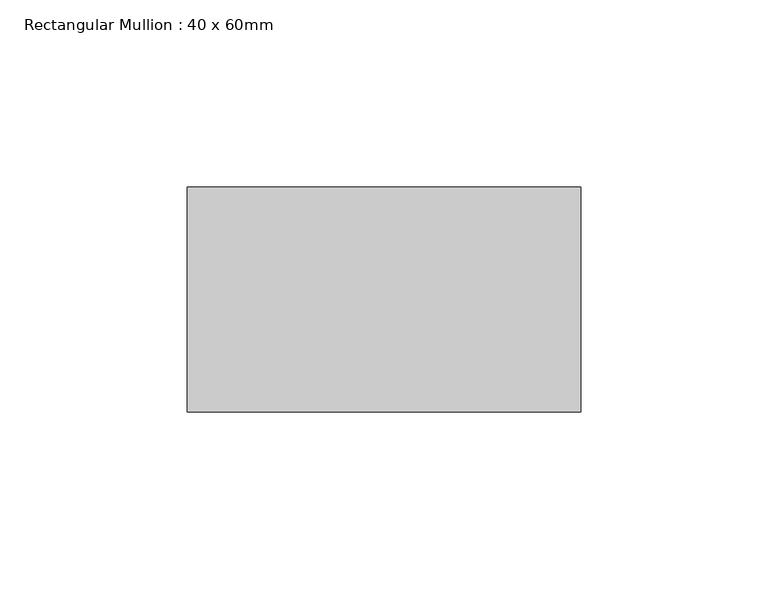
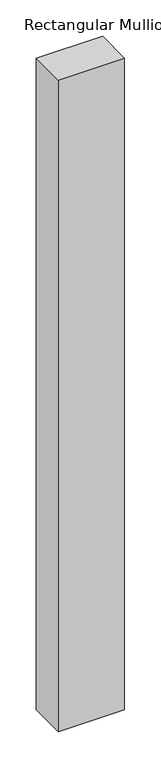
"""IFC4 building model written with IfcOpenShell, lengths in millimetres: member geometry, Rectangular Mullion : 40 x 60mm."""

import ifcopenshell
import ifcopenshell.guid

model = None  # the IFC model being written
_history = None  # IfcOwnerHistory: only IFC2X3 demands one
_inside = {}  # id of a spatial element -> (the spatial element, [elements in it])
_under = {}  # id of a project, library or spatial element -> (it, [spatial elements below it])
_declared = {}  # id of a project -> (the project, [libraries it declares])
_typed = {}  # id of a type object -> (the type object, [elements of that type])
_made_of = {}  # id of a material, layer set ... -> (it, [elements and type objects made of it])


def new_model(schema):
    """Start an empty IFC model of exactly this schema.

    Asked for "IFC4X3", IfcOpenShell would pick the latest addendum, in which some entities
    have other attributes; the version numbers below select the first issue.
    IFC2X3 requires an IfcOwnerHistory on every rooted entity: one is made here for all.
    """
    global model, _history
    if schema == "IFC4X3":
        model = ifcopenshell.file(schema_version=(4, 3, 0, 0))
    else:
        model = ifcopenshell.file(schema=schema)
    _inside.clear()
    _under.clear()
    _declared.clear()
    _typed.clear()
    _made_of.clear()
    _history = None
    if model.schema == "IFC2X3":
        org = make("IfcOrganization", Name="unknown")
        user = make(
            "IfcPersonAndOrganization",
            ThePerson=make("IfcPerson", FamilyName="unknown"),
            TheOrganization=org,
        )
        app = make(
            "IfcApplication",
            ApplicationDeveloper=org,
            Version="unknown",
            ApplicationFullName="unknown",
            ApplicationIdentifier="unknown",
        )
        _history = make(
            "IfcOwnerHistory",
            OwningUser=user,
            OwningApplication=app,
            ChangeAction="ADDED",
            CreationDate=0,
        )
    return model


def make(cls, **values):
    """One entity of the class cls with the attributes given. An attribute that is None is left unset."""
    return model.create_entity(
        cls, **{name: value for name, value in values.items() if value is not None}
    )


def rooted(cls, **values):
    """An entity with a GlobalId (a new one), such as an element, a storey or a relation."""
    return make(cls, GlobalId=ifcopenshell.guid.new(), OwnerHistory=_history, **values)


def si_unit(unit_type, name, prefix=None):
    """IfcSIUnit, for example si_unit("LENGTHUNIT", "METRE", prefix="MILLI")."""
    return make("IfcSIUnit", UnitType=unit_type, Prefix=prefix, Name=name)


def assignment(units):
    """IfcUnitAssignment: the units of a project."""
    return None if units is None else make("IfcUnitAssignment", Units=units)


def point(xyz):
    """IfcCartesianPoint."""
    return None if xyz is None else make("IfcCartesianPoint", Coordinates=xyz)


def direction(xyz):
    """IfcDirection."""
    return None if xyz is None else make("IfcDirection", DirectionRatios=xyz)


def frame(location, z_axis=None, x_axis=None):
    """IfcAxis2Placement3D, a coordinate frame: its origin and axes. An axis left out is left unset."""
    return make(
        "IfcAxis2Placement3D",
        Location=point(location),
        Axis=direction(z_axis),
        RefDirection=direction(x_axis),
    )


def origin():
    """The frame at (0, 0, 0) with its axes left unset."""
    return frame((0.0, 0.0, 0.0))


def place(relative_to, where):
    """IfcLocalPlacement: puts the frame where relative to a parent placement (None: the world)."""
    return make(
        "IfcLocalPlacement", PlacementRelTo=relative_to, RelativePlacement=where
    )


def context(
    kind, dimensions, precision=None, world=None, true_north=None, identifier=None
):
    """IfcGeometricRepresentationContext, for example the 3D "Model" context."""
    return make(
        "IfcGeometricRepresentationContext",
        ContextIdentifier=identifier,
        ContextType=kind,
        CoordinateSpaceDimension=dimensions,
        Precision=precision,
        WorldCoordinateSystem=world,
        TrueNorth=true_north,
    )


def project(units=None, contexts=None):
    """IfcProject with its units and contexts."""
    return rooted(
        "IfcProject",
        Name="project",
        RepresentationContexts=contexts,
        UnitsInContext=assignment(units),
    )


def spatial(cls, under=None, at=None, **own):
    """A site, building, storey or space (cls), placed at a placement, below another one or the project."""
    s = rooted(cls, ObjectPlacement=at, **own)
    if under is not None:
        _under.setdefault(under.id(), (under, []))[1].append(s)
    return s


def polyline(points):
    """IfcPolyline through the points."""
    return make("IfcPolyline", Points=[point(p) for p in points])


def outline(outer, holes=None, kind="AREA"):
    """IfcArbitraryClosedProfileDef: a profile drawn as a closed curve; with holes, ...WithVoids."""
    if holes is None:
        return make("IfcArbitraryClosedProfileDef", ProfileType=kind, OuterCurve=outer)
    return make(
        "IfcArbitraryProfileDefWithVoids",
        ProfileType=kind,
        OuterCurve=outer,
        InnerCurves=holes,
    )


def extrude(swept, where, along, depth):
    """IfcExtrudedAreaSolid: the profile swept, set in the frame where, extruded along a direction by depth."""
    return make(
        "IfcExtrudedAreaSolid",
        SweptArea=swept,
        Position=where,
        ExtrudedDirection=direction(along),
        Depth=depth,
    )


def shape(context_of_items, identifier, shape_type, items):
    """IfcShapeRepresentation: the items that make up one representation, for example the "Body"."""
    return make(
        "IfcShapeRepresentation",
        ContextOfItems=context_of_items,
        RepresentationIdentifier=identifier,
        RepresentationType=shape_type,
        Items=items,
    )


def source(mapping_origin, context_of_items, identifier, shape_type, items):
    """IfcRepresentationMap: a shape defined once, which mapped items show again and again."""
    return make(
        "IfcRepresentationMap",
        MappingOrigin=mapping_origin,
        MappedRepresentation=shape(context_of_items, identifier, shape_type, items),
    )


def transform(
    local_origin,
    x_axis=None,
    y_axis=None,
    z_axis=None,
    scale=None,
    scale2=None,
    scale3=None,
    uniform=True,
):
    """IfcCartesianTransformationOperator3D, or its non-uniform kind. x_axis, y_axis, z_axis: its Axis1, 2, 3."""
    if uniform:
        return make(
            "IfcCartesianTransformationOperator3D",
            Axis1=direction(x_axis),
            Axis2=direction(y_axis),
            LocalOrigin=point(local_origin),
            Scale=scale,
            Axis3=direction(z_axis),
        )
    return make(
        "IfcCartesianTransformationOperator3DnonUniform",
        Axis1=direction(x_axis),
        Axis2=direction(y_axis),
        LocalOrigin=point(local_origin),
        Scale=scale,
        Axis3=direction(z_axis),
        Scale2=scale2,
        Scale3=scale3,
    )


def mapped(mapping_source, mapping_target):
    """IfcMappedItem: shows the shape of a source again, moved by a transform."""
    return make(
        "IfcMappedItem", MappingSource=mapping_source, MappingTarget=mapping_target
    )


def made_of(thing, what):
    """Note that an element or type object is made of a material, layer set ...; save() writes the relation."""
    if what is not None:
        _made_of.setdefault(what.id(), (what, []))[1].append(thing)
    return thing


def element(
    cls,
    number,
    at=None,
    inside=None,
    cuts=None,
    type_object=None,
    material=None,
    context=None,
    identifier="Body",
    shape_type=None,
    held_by="IfcProductDefinitionShape",
    body=None,
    shapes=None,
    **own,
):
    """One element of the class cls, such as IfcWall. Its Tag is "e" and its number.

    at: its placement. inside: the storey or other place that contains it. cuts: it is an
    opening in that element (IfcRelVoidsElement). A single representation is given by context,
    identifier, shape_type and body (its items); several are given by shapes. held_by: the class
    of the entity that holds the representations. save() writes the other relations.
    """
    e = rooted(cls, Tag="e%d" % number, ObjectPlacement=at, **own)
    if body is not None:
        shapes = [shape(context, identifier, shape_type, body)]
    if shapes is not None:
        e.Representation = make(held_by, Representations=shapes)
    if inside is not None:
        _inside.setdefault(inside.id(), (inside, []))[1].append(e)
    if cuts is not None:
        rooted(
            "IfcRelVoidsElement", RelatingBuildingElement=cuts, RelatedOpeningElement=e
        )
    if type_object is not None:
        _typed.setdefault(type_object.id(), (type_object, []))[1].append(e)
    return made_of(e, material)


def aggregate(whole, parts):
    """IfcRelAggregates: a whole, such as a stair, and the parts it consists of."""
    return rooted("IfcRelAggregates", RelatingObject=whole, RelatedObjects=parts)


def save(model, path):
    """Write the relations noted so far, then the file.

    IfcRelAggregates (storeys below a building ...), IfcRelContainedInSpatialStructure (elements
    in a storey), IfcRelDefinesByType, IfcRelAssociatesMaterial and IfcRelDeclares: one each for
    every whole, place, type object, material and project.
    """
    for whole, parts in _under.values():
        aggregate(whole, parts)
    for where, things in _inside.values():
        rooted(
            "IfcRelContainedInSpatialStructure",
            RelatedElements=things,
            RelatingStructure=where,
        )
    for kind, things in _typed.values():
        rooted("IfcRelDefinesByType", RelatedObjects=things, RelatingType=kind)
    for what, things in _made_of.values():
        rooted("IfcRelAssociatesMaterial", RelatedObjects=things, RelatingMaterial=what)
    for by, libraries in _declared.values():
        rooted("IfcRelDeclares", RelatingContext=by, RelatedDefinitions=libraries)
    model.write(path)


def rectangular_mullion_40_x_60mm_61ab738d(model_context):
    return source(origin(), model_context, "Body", "SweptSolid", [
        extrude(outline(polyline([(80.0, -10.0), (80.0, -70.0), (-25.0, -70.0), (-25.0, -10.0), (80.0, -10.0)])), frame((0.0, 0.0, -1092.716342), z_axis=(0.0, 0.0, 1.0), x_axis=(1.0, 0.0, 0.0)), (0.0, 0.0, 1.0), 1092.716342),
    ])


if __name__ == "__main__":
    model = new_model("IFC4")
    model_context = context("Model", 3, world=origin())
    ifc_project = project(units=[si_unit("LENGTHUNIT", "METRE", prefix="MILLI")], contexts=[model_context])
    site = spatial("IfcSite", under=ifc_project)
    building = spatial("IfcBuilding", under=site)
    placement = place(None, origin())
    rectangular_mullion_40_x_60mm_shape = rectangular_mullion_40_x_60mm_61ab738d(model_context)
    element("IfcMember", 1, ObjectType="Rectangular Mullion : 40 x 60mm", at=placement, inside=building, context=model_context, shape_type="MappedRepresentation", body=[
        mapped(rectangular_mullion_40_x_60mm_shape, transform((0.0, 0.0, 0.0), x_axis=(1.0, 0.0, 0.0), y_axis=(0.0, 1.0, 0.0), z_axis=(0.0, 0.0, 1.0))),
    ])
    save(model, "model.ifc")
